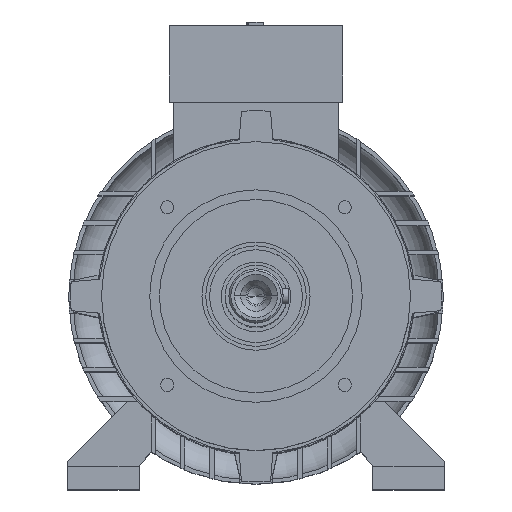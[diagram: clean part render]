
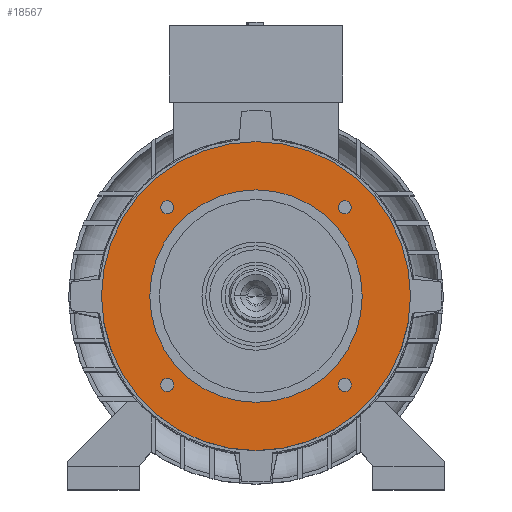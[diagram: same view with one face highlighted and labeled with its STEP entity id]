
A CAD part, top view. The second image highlights one B-rep face of the part: STEP entity #18567.
In plain terms, the highlighted planar face has unit normal (0, 0, 1).
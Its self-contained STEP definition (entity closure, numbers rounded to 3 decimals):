
#24 = CARTESIAN_POINT ( 'NONE',  ( -42.562, -45.962, 133. ) ) ;
#200 = DIRECTION ( 'NONE',  ( 0., 0., 1. ) ) ;
#430 = DIRECTION ( 'NONE',  ( 0., 0., -1. ) ) ;
#524 = DIRECTION ( 'NONE',  ( 1., 0., 0. ) ) ;
#580 = CIRCLE ( 'NONE', #33360, 3.4 ) ;
#792 = EDGE_CURVE ( 'NONE', #28755, #9728, #31685, .T. ) ;
#954 = CARTESIAN_POINT ( 'NONE',  ( -45.962, 45.962, 133. ) ) ;
#1974 = EDGE_CURVE ( 'NONE', #23381, #26331, #26863, .T. ) ;
#2459 = CIRCLE ( 'NONE', #10796, 80. ) ;
#2794 = ORIENTED_EDGE ( 'NONE', *, *, #1974, .F. ) ;
#2894 = ORIENTED_EDGE ( 'NONE', *, *, #792, .T. ) ;
#3126 = CARTESIAN_POINT ( 'NONE',  ( -45.962, -45.962, 133. ) ) ;
#3221 = DIRECTION ( 'NONE',  ( 1., 0., 0. ) ) ;
#3399 = DIRECTION ( 'NONE',  ( 1., 0., 0. ) ) ;
#3622 = CARTESIAN_POINT ( 'NONE',  ( 55., 0., 133. ) ) ;
#4361 = CARTESIAN_POINT ( 'NONE',  ( 0., 0., 133. ) ) ;
#4595 = DIRECTION ( 'NONE',  ( -1., 0., 0. ) ) ;
#5938 = EDGE_LOOP ( 'NONE', ( #11081, #30562 ) ) ;
#6097 = ORIENTED_EDGE ( 'NONE', *, *, #22973, .F. ) ;
#6133 = DIRECTION ( 'NONE',  ( 0., 0., 1. ) ) ;
#6354 = FACE_BOUND ( 'NONE', #5938, .T. ) ;
#6607 = EDGE_LOOP ( 'NONE', ( #18070, #14173 ) ) ;
#6808 = VERTEX_POINT ( 'NONE', #33004 ) ;
#7539 = CIRCLE ( 'NONE', #31452, 3.4 ) ;
#8232 = DIRECTION ( 'NONE',  ( 0., 0., 1. ) ) ;
#8300 = DIRECTION ( 'NONE',  ( 1., 0., 0. ) ) ;
#8340 = ORIENTED_EDGE ( 'NONE', *, *, #12236, .T. ) ;
#8365 = CARTESIAN_POINT ( 'NONE',  ( -80., 0., 133. ) ) ;
#8526 = DIRECTION ( 'NONE',  ( 0., 0., 1. ) ) ;
#8548 = CARTESIAN_POINT ( 'NONE',  ( 0., 0., 133. ) ) ;
#8559 = AXIS2_PLACEMENT_3D ( 'NONE', #8548, #430, #11138 ) ;
#8620 = DIRECTION ( 'NONE',  ( 1., 0., 0. ) ) ;
#8622 = CARTESIAN_POINT ( 'NONE',  ( 0., 0., 133. ) ) ;
#9151 = EDGE_CURVE ( 'NONE', #23571, #29777, #21887, .T. ) ;
#9170 = FACE_BOUND ( 'NONE', #6607, .T. ) ;
#9728 = VERTEX_POINT ( 'NONE', #30145 ) ;
#10376 = VERTEX_POINT ( 'NONE', #16061 ) ;
#10675 = PLANE ( 'NONE',  #29978 ) ;
#10697 = AXIS2_PLACEMENT_3D ( 'NONE', #3126, #21257, #23944 ) ;
#10796 = AXIS2_PLACEMENT_3D ( 'NONE', #8622, #11106, #32109 ) ;
#10861 = CIRCLE ( 'NONE', #30201, 3.4 ) ;
#11081 = ORIENTED_EDGE ( 'NONE', *, *, #14972, .F. ) ;
#11106 = DIRECTION ( 'NONE',  ( 0., 0., -1. ) ) ;
#11138 = DIRECTION ( 'NONE',  ( -1., 0., 0. ) ) ;
#11317 = DIRECTION ( 'NONE',  ( 1., 0., 0. ) ) ;
#11897 = ORIENTED_EDGE ( 'NONE', *, *, #33785, .F. ) ;
#12236 = EDGE_CURVE ( 'NONE', #9728, #28755, #17061, .T. ) ;
#12587 = VERTEX_POINT ( 'NONE', #32126 ) ;
#12827 = AXIS2_PLACEMENT_3D ( 'NONE', #21765, #16553, #3399 ) ;
#13288 = CIRCLE ( 'NONE', #14671, 3.4 ) ;
#13586 = EDGE_LOOP ( 'NONE', ( #24263, #2794 ) ) ;
#13652 = AXIS2_PLACEMENT_3D ( 'NONE', #23709, #8232, #3221 ) ;
#14173 = ORIENTED_EDGE ( 'NONE', *, *, #31007, .F. ) ;
#14671 = AXIS2_PLACEMENT_3D ( 'NONE', #17002, #27076, #11317 ) ;
#14972 = EDGE_CURVE ( 'NONE', #17178, #6808, #20725, .T. ) ;
#15524 = CIRCLE ( 'NONE', #10697, 3.4 ) ;
#15542 = VERTEX_POINT ( 'NONE', #21967 ) ;
#15706 = AXIS2_PLACEMENT_3D ( 'NONE', #31023, #20232, #30788 ) ;
#16061 = CARTESIAN_POINT ( 'NONE',  ( -49.362, -45.962, 133. ) ) ;
#16553 = DIRECTION ( 'NONE',  ( 0., 0., 1. ) ) ;
#16678 = CIRCLE ( 'NONE', #13652, 3.4 ) ;
#16914 = DIRECTION ( 'NONE',  ( 1., 0., 0. ) ) ;
#17002 = CARTESIAN_POINT ( 'NONE',  ( -45.962, 45.962, 133. ) ) ;
#17061 = CIRCLE ( 'NONE', #32958, 55. ) ;
#17178 = VERTEX_POINT ( 'NONE', #31838 ) ;
#17675 = EDGE_LOOP ( 'NONE', ( #8340, #2894 ) ) ;
#18070 = ORIENTED_EDGE ( 'NONE', *, *, #9151, .F. ) ;
#18567 = ADVANCED_FACE ( 'NONE', ( #19795, #6354, #9170, #31306, #24353, #30473 ), #10675, .T. ) ;
#18685 = CARTESIAN_POINT ( 'NONE',  ( 42.562, 45.962, 133. ) ) ;
#19795 = FACE_BOUND ( 'NONE', #32529, .T. ) ;
#19798 = VERTEX_POINT ( 'NONE', #24 ) ;
#19959 = EDGE_CURVE ( 'NONE', #10376, #19798, #15524, .T. ) ;
#20091 = CARTESIAN_POINT ( 'NONE',  ( 0., 0., 133. ) ) ;
#20232 = DIRECTION ( 'NONE',  ( 0., 0., 1. ) ) ;
#20517 = AXIS2_PLACEMENT_3D ( 'NONE', #20091, #22790, #4595 ) ;
#20725 = CIRCLE ( 'NONE', #15706, 3.4 ) ;
#20926 = CARTESIAN_POINT ( 'NONE',  ( 80., 0., 133. ) ) ;
#21257 = DIRECTION ( 'NONE',  ( 0., 0., 1. ) ) ;
#21765 = CARTESIAN_POINT ( 'NONE',  ( 45.962, 45.962, 133. ) ) ;
#21887 = CIRCLE ( 'NONE', #12827, 3.4 ) ;
#21911 = EDGE_CURVE ( 'NONE', #26331, #23381, #2459, .T. ) ;
#21967 = CARTESIAN_POINT ( 'NONE',  ( -42.562, 45.962, 133. ) ) ;
#22661 = DIRECTION ( 'NONE',  ( -1., 0., 0. ) ) ;
#22790 = DIRECTION ( 'NONE',  ( 0., 0., -1. ) ) ;
#22973 = EDGE_CURVE ( 'NONE', #12587, #15542, #10861, .T. ) ;
#23381 = VERTEX_POINT ( 'NONE', #20926 ) ;
#23571 = VERTEX_POINT ( 'NONE', #26065 ) ;
#23709 = CARTESIAN_POINT ( 'NONE',  ( 45.962, -45.962, 133. ) ) ;
#23944 = DIRECTION ( 'NONE',  ( 1., 0., 0. ) ) ;
#24263 = ORIENTED_EDGE ( 'NONE', *, *, #21911, .F. ) ;
#24344 = CARTESIAN_POINT ( 'NONE',  ( -45.962, -45.962, 133. ) ) ;
#24353 = FACE_BOUND ( 'NONE', #17675, .T. ) ;
#26065 = CARTESIAN_POINT ( 'NONE',  ( 49.362, 45.962, 133. ) ) ;
#26331 = VERTEX_POINT ( 'NONE', #8365 ) ;
#26447 = CARTESIAN_POINT ( 'NONE',  ( 0., 55., 133. ) ) ;
#26863 = CIRCLE ( 'NONE', #8559, 80. ) ;
#27076 = DIRECTION ( 'NONE',  ( 0., 0., 1. ) ) ;
#27108 = DIRECTION ( 'NONE',  ( 0., 0., 1. ) ) ;
#27685 = DIRECTION ( 'NONE',  ( 0., 0., -1. ) ) ;
#28755 = VERTEX_POINT ( 'NONE', #3622 ) ;
#29777 = VERTEX_POINT ( 'NONE', #18685 ) ;
#29978 = AXIS2_PLACEMENT_3D ( 'NONE', #26447, #200, #524 ) ;
#30145 = CARTESIAN_POINT ( 'NONE',  ( -55., 0., 133. ) ) ;
#30201 = AXIS2_PLACEMENT_3D ( 'NONE', #954, #6133, #8620 ) ;
#30473 = FACE_OUTER_BOUND ( 'NONE', #13586, .T. ) ;
#30562 = ORIENTED_EDGE ( 'NONE', *, *, #32328, .F. ) ;
#30575 = EDGE_CURVE ( 'NONE', #15542, #12587, #13288, .T. ) ;
#30788 = DIRECTION ( 'NONE',  ( 1., 0., 0. ) ) ;
#31007 = EDGE_CURVE ( 'NONE', #29777, #23571, #7539, .T. ) ;
#31023 = CARTESIAN_POINT ( 'NONE',  ( 45.962, -45.962, 133. ) ) ;
#31306 = FACE_BOUND ( 'NONE', #32182, .T. ) ;
#31452 = AXIS2_PLACEMENT_3D ( 'NONE', #32713, #27108, #16914 ) ;
#31496 = ORIENTED_EDGE ( 'NONE', *, *, #19959, .F. ) ;
#31685 = CIRCLE ( 'NONE', #20517, 55. ) ;
#31838 = CARTESIAN_POINT ( 'NONE',  ( 49.362, -45.962, 133. ) ) ;
#32109 = DIRECTION ( 'NONE',  ( -1., 0., 0. ) ) ;
#32126 = CARTESIAN_POINT ( 'NONE',  ( -49.362, 45.962, 133. ) ) ;
#32182 = EDGE_LOOP ( 'NONE', ( #32695, #6097 ) ) ;
#32328 = EDGE_CURVE ( 'NONE', #6808, #17178, #16678, .T. ) ;
#32529 = EDGE_LOOP ( 'NONE', ( #11897, #31496 ) ) ;
#32695 = ORIENTED_EDGE ( 'NONE', *, *, #30575, .F. ) ;
#32713 = CARTESIAN_POINT ( 'NONE',  ( 45.962, 45.962, 133. ) ) ;
#32958 = AXIS2_PLACEMENT_3D ( 'NONE', #4361, #27685, #22661 ) ;
#33004 = CARTESIAN_POINT ( 'NONE',  ( 42.562, -45.962, 133. ) ) ;
#33360 = AXIS2_PLACEMENT_3D ( 'NONE', #24344, #8526, #8300 ) ;
#33785 = EDGE_CURVE ( 'NONE', #19798, #10376, #580, .T. ) ;
